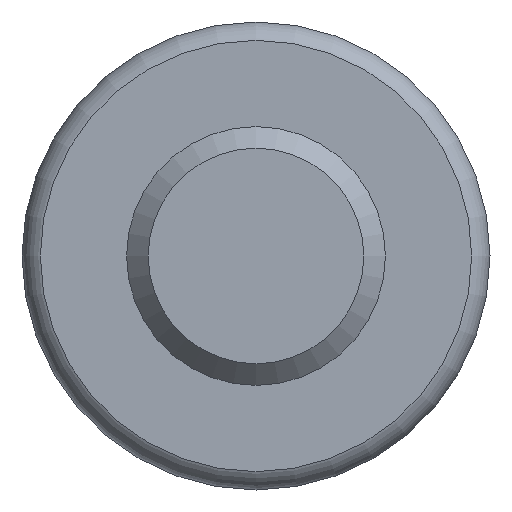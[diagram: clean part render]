
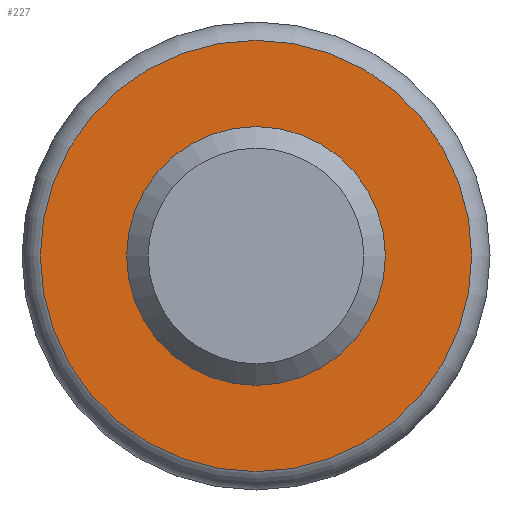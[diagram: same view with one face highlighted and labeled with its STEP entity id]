
A CAD part, front view. The second image highlights one B-rep face of the part: STEP entity #227.
In plain terms, the highlighted planar face has unit normal (0, -1, 0).
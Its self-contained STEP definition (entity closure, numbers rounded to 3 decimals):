
#6 = CARTESIAN_POINT ( 'NONE',  ( 0., -43., 5. ) ) ;
#13 = DIRECTION ( 'NONE',  ( 0., 0., 1. ) ) ;
#43 = CARTESIAN_POINT ( 'NONE',  ( 0., -43., 0. ) ) ;
#49 = CIRCLE ( 'NONE', #324, 5. ) ;
#54 = ORIENTED_EDGE ( 'NONE', *, *, #285, .F. ) ;
#66 = DIRECTION ( 'NONE',  ( 0., 0., 1. ) ) ;
#93 = ORIENTED_EDGE ( 'NONE', *, *, #109, .T. ) ;
#100 = DIRECTION ( 'NONE',  ( 0., 1., 0. ) ) ;
#109 = EDGE_CURVE ( 'NONE', #353, #353, #232, .T. ) ;
#138 = EDGE_LOOP ( 'NONE', ( #54 ) ) ;
#153 = VERTEX_POINT ( 'NONE', #6 ) ;
#197 = PLANE ( 'NONE',  #290 ) ;
#227 = ADVANCED_FACE ( 'NONE', ( #301, #299 ), #197, .F. ) ;
#228 = DIRECTION ( 'NONE',  ( 0., 1., 0. ) ) ;
#232 = CIRCLE ( 'NONE', #266, 3. ) ;
#266 = AXIS2_PLACEMENT_3D ( 'NONE', #286, #100, #66 ) ;
#285 = EDGE_CURVE ( 'NONE', #153, #153, #49, .T. ) ;
#286 = CARTESIAN_POINT ( 'NONE',  ( 0., -43., 0. ) ) ;
#290 = AXIS2_PLACEMENT_3D ( 'NONE', #335, #402, #13 ) ;
#299 = FACE_BOUND ( 'NONE', #431, .T. ) ;
#301 = FACE_OUTER_BOUND ( 'NONE', #138, .T. ) ;
#324 = AXIS2_PLACEMENT_3D ( 'NONE', #43, #228, #406 ) ;
#335 = CARTESIAN_POINT ( 'NONE',  ( 3., -43., 0. ) ) ;
#353 = VERTEX_POINT ( 'NONE', #396 ) ;
#396 = CARTESIAN_POINT ( 'NONE',  ( 0., -43., 3. ) ) ;
#402 = DIRECTION ( 'NONE',  ( 0., 1., 0. ) ) ;
#406 = DIRECTION ( 'NONE',  ( 0., 0., 1. ) ) ;
#431 = EDGE_LOOP ( 'NONE', ( #93 ) ) ;
